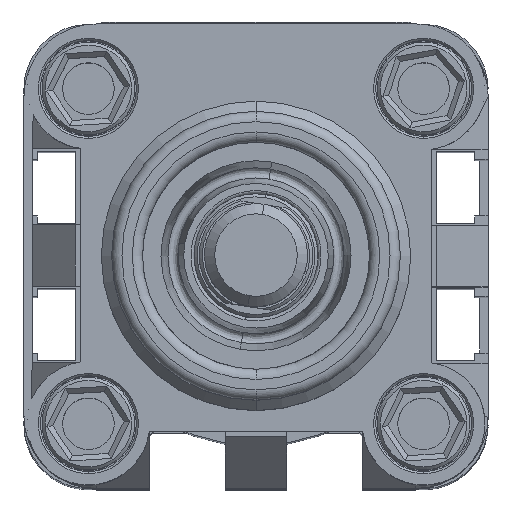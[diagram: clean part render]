
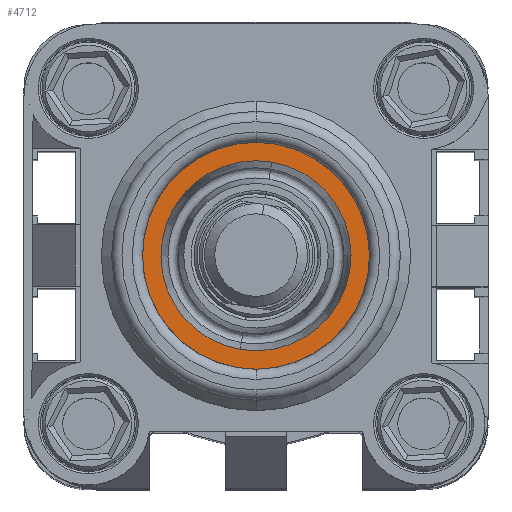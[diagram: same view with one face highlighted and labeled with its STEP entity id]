
A CAD part, top view. The second image highlights one B-rep face of the part: STEP entity #4712.
In plain terms, the highlighted planar face has unit normal (0, 0, 1) as drawn and (0, -1, 0) by its records, which use the part's own axes.
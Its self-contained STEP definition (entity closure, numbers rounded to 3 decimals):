
#860 = AXIS2_PLACEMENT_3D ( 'NONE', #19148, #8362, #9922 ) ;
#971 = AXIS2_PLACEMENT_3D ( 'NONE', #23211, #17805, #19624 ) ;
#1114 = DIRECTION ( 'NONE',  ( 0., 0., -1. ) ) ;
#2111 = CIRCLE ( 'NONE', #10534, 9.214 ) ;
#2516 = AXIS2_PLACEMENT_3D ( 'NONE', #15258, #7669, #16873 ) ;
#2615 = EDGE_CURVE ( 'NONE', #9090, #15753, #15553, .T. ) ;
#2781 = PLANE ( 'NONE',  #13162 ) ;
#3670 = EDGE_LOOP ( 'NONE', ( #22081, #6149 ) ) ;
#4616 = CARTESIAN_POINT ( 'NONE',  ( 0., -10.4, -11. ) ) ;
#4654 = DIRECTION ( 'NONE',  ( 0., -1., 0. ) ) ;
#4712 = ADVANCED_FACE ( 'NONE', ( #15683, #13135 ), #2781, .T. ) ;
#5981 = CARTESIAN_POINT ( 'NONE',  ( 0., -10.4, 11. ) ) ;
#6149 = ORIENTED_EDGE ( 'NONE', *, *, #19802, .F. ) ;
#6958 = VERTEX_POINT ( 'NONE', #4616 ) ;
#6974 = ORIENTED_EDGE ( 'NONE', *, *, #2615, .T. ) ;
#7669 = DIRECTION ( 'NONE',  ( 0., 1., 0. ) ) ;
#8362 = DIRECTION ( 'NONE',  ( 0., 1., 0. ) ) ;
#8711 = CARTESIAN_POINT ( 'NONE',  ( 0., -10.4, 9.214 ) ) ;
#9090 = VERTEX_POINT ( 'NONE', #8711 ) ;
#9922 = DIRECTION ( 'NONE',  ( 0., 0., 1. ) ) ;
#10430 = VERTEX_POINT ( 'NONE', #5981 ) ;
#10534 = AXIS2_PLACEMENT_3D ( 'NONE', #18666, #11477, #22145 ) ;
#11477 = DIRECTION ( 'NONE',  ( 0., 1., 0. ) ) ;
#13135 = FACE_OUTER_BOUND ( 'NONE', #3670, .T. ) ;
#13162 = AXIS2_PLACEMENT_3D ( 'NONE', #20683, #4654, #1114 ) ;
#15258 = CARTESIAN_POINT ( 'NONE',  ( 0., -10.4, 0. ) ) ;
#15553 = CIRCLE ( 'NONE', #2516, 9.214 ) ;
#15683 = FACE_BOUND ( 'NONE', #22877, .T. ) ;
#15753 = VERTEX_POINT ( 'NONE', #20118 ) ;
#16873 = DIRECTION ( 'NONE',  ( 0., 0., -1. ) ) ;
#16930 = ORIENTED_EDGE ( 'NONE', *, *, #20443, .T. ) ;
#17805 = DIRECTION ( 'NONE',  ( 0., 1., 0. ) ) ;
#18240 = CIRCLE ( 'NONE', #971, 11. ) ;
#18486 = CIRCLE ( 'NONE', #860, 11. ) ;
#18666 = CARTESIAN_POINT ( 'NONE',  ( 0., -10.4, 0. ) ) ;
#19148 = CARTESIAN_POINT ( 'NONE',  ( 0., -10.4, 0. ) ) ;
#19624 = DIRECTION ( 'NONE',  ( 0., 0., 1. ) ) ;
#19802 = EDGE_CURVE ( 'NONE', #6958, #10430, #18240, .T. ) ;
#20118 = CARTESIAN_POINT ( 'NONE',  ( 0., -10.4, -9.214 ) ) ;
#20443 = EDGE_CURVE ( 'NONE', #15753, #9090, #2111, .T. ) ;
#20683 = CARTESIAN_POINT ( 'NONE',  ( -11., -10.4, 0. ) ) ;
#22081 = ORIENTED_EDGE ( 'NONE', *, *, #22267, .F. ) ;
#22145 = DIRECTION ( 'NONE',  ( 0., 0., -1. ) ) ;
#22267 = EDGE_CURVE ( 'NONE', #10430, #6958, #18486, .T. ) ;
#22877 = EDGE_LOOP ( 'NONE', ( #16930, #6974 ) ) ;
#23211 = CARTESIAN_POINT ( 'NONE',  ( 0., -10.4, 0. ) ) ;
